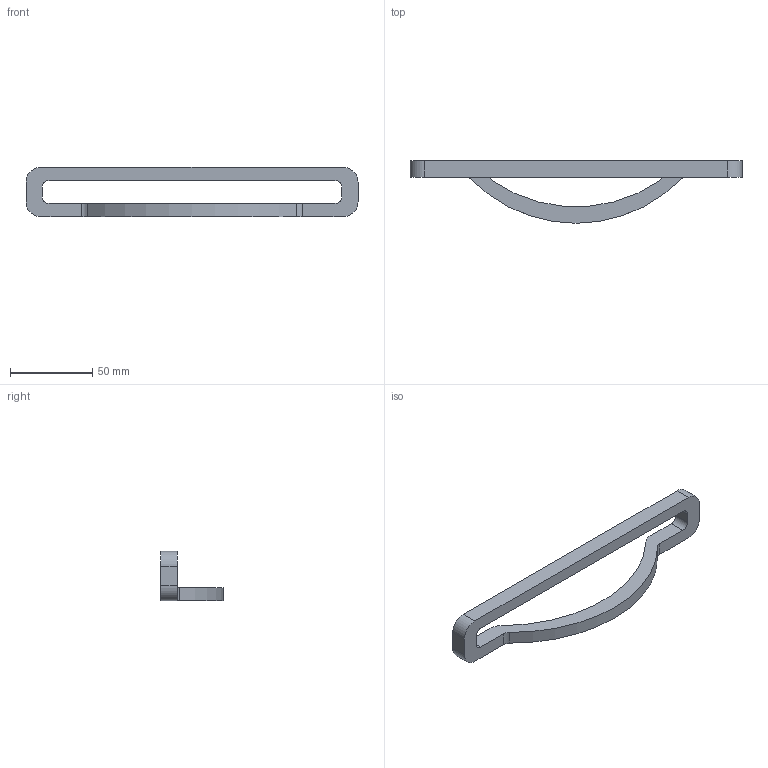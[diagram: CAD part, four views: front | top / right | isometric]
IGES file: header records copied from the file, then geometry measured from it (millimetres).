
Start section: Data from Parasolid IGES Translator 15.0.47, Copyright(c) 2006 Siemens P LM Software. All Rights Reserved.
Global section: file name: 9105739.igs; native system:  By UGS Corp.; preprocessor: XPlus GENERIC/IGES 3.0; author: Noname; organization: Noname; date: 20140122.145931; units: millimetre
Bounding box: 202 x 38 x 30 mm (x, y, z)
Surface area: 15681.7 mm2 (no closed solid volume)
Topology: 0 solids, 0 shells, 28 faces, 156 edges, 154 vertices
Faces by surface type: revolution 16, extrusion 12
